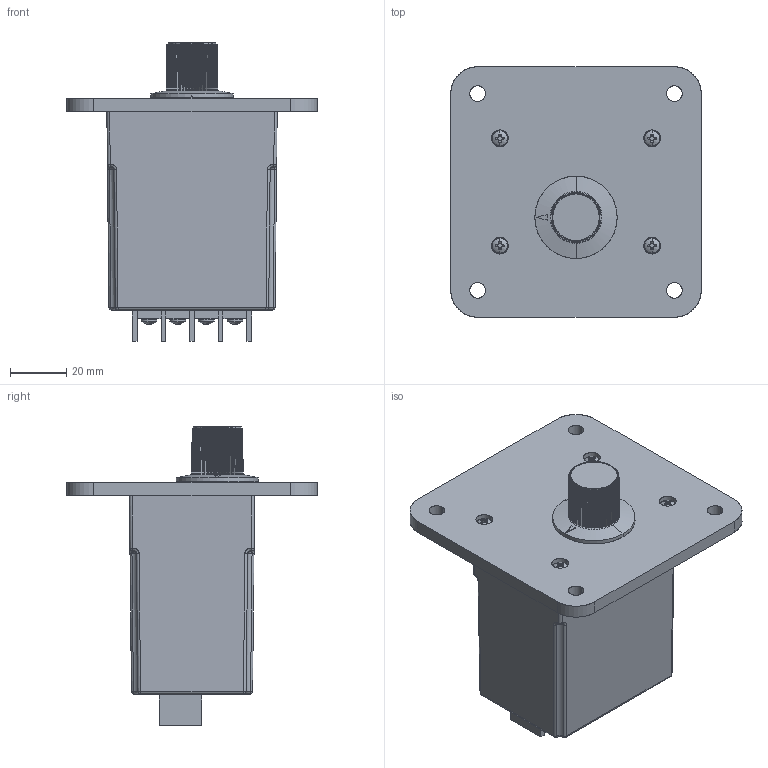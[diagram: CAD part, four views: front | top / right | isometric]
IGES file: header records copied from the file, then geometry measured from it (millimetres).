
Start section: SolidWorks IGES file using analytic representation for surfaces
Global section: file name: D:\Modeling Work\Macromatic\2019\Phase 2\PTA\PTA-Base.IGS; native system: SolidWorks 2019; preprocessor: SolidWorks 2019; author: mdahl; date: 190701.191435; units: millimetre
Bounding box: 88.9 x 88.9 x 105.94 mm (x, y, z)
Surface area: 47461.5 mm2 (no closed solid volume)
Topology: 0 solids, 0 shells, 1309 faces, 15152 edges, 15126 vertices
Faces by surface type: bspline 779, revolution 530
